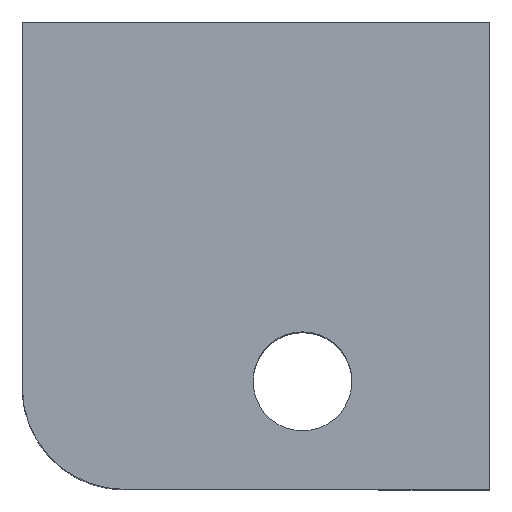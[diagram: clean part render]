
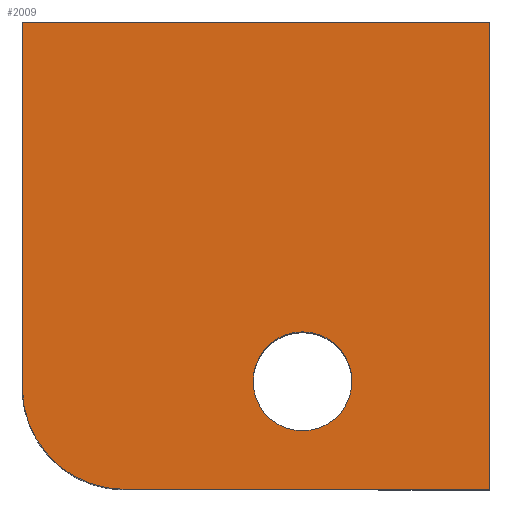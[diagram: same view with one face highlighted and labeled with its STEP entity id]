
A CAD part, top view. The second image highlights one B-rep face of the part: STEP entity #2009.
In plain terms, the highlighted planar face has unit normal (0, 0, 1).
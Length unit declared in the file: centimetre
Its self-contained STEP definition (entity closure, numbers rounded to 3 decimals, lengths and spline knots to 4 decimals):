
#19 = ORIENTED_EDGE ( 'NONE', *, *, #1754, .F. ) ;
#26 = CARTESIAN_POINT ( 'NONE',  ( 1000., 1000., 1000. ) ) ;
#45 = EDGE_CURVE ( 'NONE', #541, #1090, #1651, .T. ) ;
#69 = CARTESIAN_POINT ( 'NONE',  ( 0., 1000., 1000. ) ) ;
#82 = EDGE_LOOP ( 'NONE', ( #1341, #19 ) ) ;
#111 = VERTEX_POINT ( 'NONE', #1339 ) ;
#144 = EDGE_CURVE ( 'NONE', #1391, #111, #1181, .T. ) ;
#239 = DIRECTION ( 'NONE',  ( 0., -1., 0. ) ) ;
#278 = CARTESIAN_POINT ( 'NONE',  ( 217.6697, 217.6697, 1000. ) ) ;
#323 = VERTEX_POINT ( 'NONE', #1731 ) ;
#330 = DIRECTION ( 'NONE',  ( -1., 0., 0. ) ) ;
#369 = CIRCLE ( 'NONE', #518, 217.6697 ) ;
#392 = DIRECTION ( 'NONE',  ( 1., 0., 0. ) ) ;
#435 = VERTEX_POINT ( 'NONE', #1014 ) ;
#453 = AXIS2_PLACEMENT_3D ( 'NONE', #962, #2071, #1256 ) ;
#482 = AXIS2_PLACEMENT_3D ( 'NONE', #1872, #1855, #392 ) ;
#518 = AXIS2_PLACEMENT_3D ( 'NONE', #278, #2004, #1859 ) ;
#541 = VERTEX_POINT ( 'NONE', #69 ) ;
#558 = PLANE ( 'NONE',  #482 ) ;
#604 = EDGE_CURVE ( 'NONE', #323, #435, #805, .T. ) ;
#607 = ORIENTED_EDGE ( 'NONE', *, *, #144, .T. ) ;
#631 = VECTOR ( 'NONE', #239, 100. ) ;
#739 = AXIS2_PLACEMENT_3D ( 'NONE', #909, #1048, #1191 ) ;
#748 = EDGE_LOOP ( 'NONE', ( #1777, #1638, #1233, #607, #854 ) ) ;
#805 = CIRCLE ( 'NONE', #739, 105.7684 ) ;
#853 = CARTESIAN_POINT ( 'NONE',  ( 0., 1000., 1000. ) ) ;
#854 = ORIENTED_EDGE ( 'NONE', *, *, #880, .T. ) ;
#880 = EDGE_CURVE ( 'NONE', #111, #541, #1637, .T. ) ;
#891 = VECTOR ( 'NONE', #1909, 100. ) ;
#909 = CARTESIAN_POINT ( 'NONE',  ( 599.5226, 231.0857, 1000. ) ) ;
#916 = CARTESIAN_POINT ( 'NONE',  ( 217.6697, 0., 1000. ) ) ;
#962 = CARTESIAN_POINT ( 'NONE',  ( 599.5226, 231.0857, 1000. ) ) ;
#1014 = CARTESIAN_POINT ( 'NONE',  ( 493.7542, 231.0857, 1000. ) ) ;
#1048 = DIRECTION ( 'NONE',  ( 0., 0., 1. ) ) ;
#1073 = CARTESIAN_POINT ( 'NONE',  ( 0., 217.6697, 1000. ) ) ;
#1090 = VERTEX_POINT ( 'NONE', #1073 ) ;
#1181 = LINE ( 'NONE', #26, #1946 ) ;
#1191 = DIRECTION ( 'NONE',  ( 1., 0., 0. ) ) ;
#1233 = ORIENTED_EDGE ( 'NONE', *, *, #1749, .T. ) ;
#1256 = DIRECTION ( 'NONE',  ( 1., 0., 0. ) ) ;
#1329 = DIRECTION ( 'NONE',  ( 0., 1., 0. ) ) ;
#1339 = CARTESIAN_POINT ( 'NONE',  ( 1000., 1000., 1000. ) ) ;
#1341 = ORIENTED_EDGE ( 'NONE', *, *, #604, .F. ) ;
#1348 = VERTEX_POINT ( 'NONE', #916 ) ;
#1391 = VERTEX_POINT ( 'NONE', #1584 ) ;
#1455 = CARTESIAN_POINT ( 'NONE',  ( 0., 0., 1000. ) ) ;
#1548 = VECTOR ( 'NONE', #330, 100. ) ;
#1584 = CARTESIAN_POINT ( 'NONE',  ( 1000., 0., 1000. ) ) ;
#1590 = LINE ( 'NONE', #1455, #891 ) ;
#1595 = EDGE_CURVE ( 'NONE', #1090, #1348, #369, .T. ) ;
#1637 = LINE ( 'NONE', #1767, #1548 ) ;
#1638 = ORIENTED_EDGE ( 'NONE', *, *, #1595, .T. ) ;
#1651 = LINE ( 'NONE', #853, #631 ) ;
#1659 = CIRCLE ( 'NONE', #453, 105.7684 ) ;
#1731 = CARTESIAN_POINT ( 'NONE',  ( 705.291, 231.0857, 1000. ) ) ;
#1749 = EDGE_CURVE ( 'NONE', #1348, #1391, #1590, .T. ) ;
#1754 = EDGE_CURVE ( 'NONE', #435, #323, #1659, .T. ) ;
#1767 = CARTESIAN_POINT ( 'NONE',  ( 0., 1000., 1000. ) ) ;
#1777 = ORIENTED_EDGE ( 'NONE', *, *, #45, .T. ) ;
#1834 = FACE_OUTER_BOUND ( 'NONE', #748, .T. ) ;
#1855 = DIRECTION ( 'NONE',  ( 0., 0., 1. ) ) ;
#1859 = DIRECTION ( 'NONE',  ( 1., 0., 0. ) ) ;
#1872 = CARTESIAN_POINT ( 'NONE',  ( 0., 0., 1000. ) ) ;
#1909 = DIRECTION ( 'NONE',  ( 1., 0., 0. ) ) ;
#1946 = VECTOR ( 'NONE', #1329, 100. ) ;
#2004 = DIRECTION ( 'NONE',  ( 0., 0., 1. ) ) ;
#2009 = ADVANCED_FACE ( 'NONE', ( #2036, #1834 ), #558, .T. ) ;
#2036 = FACE_BOUND ( 'NONE', #82, .T. ) ;
#2071 = DIRECTION ( 'NONE',  ( 0., 0., 1. ) ) ;
